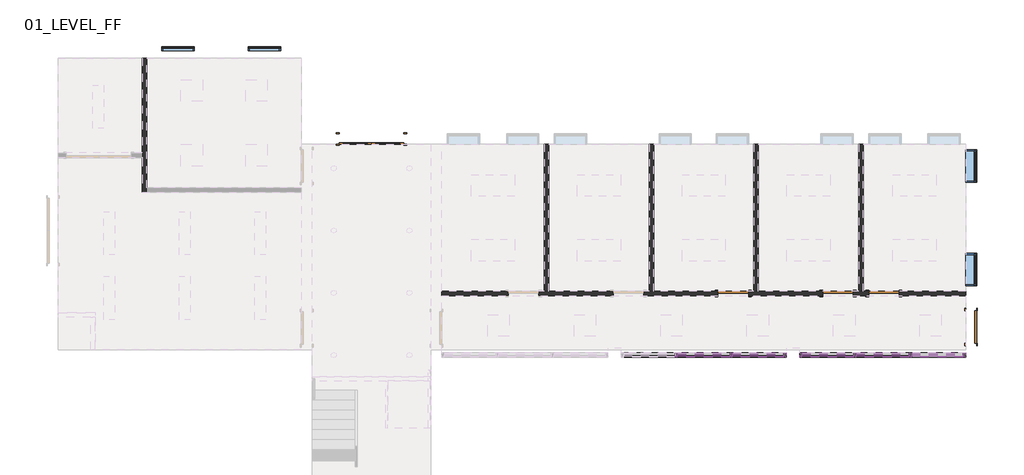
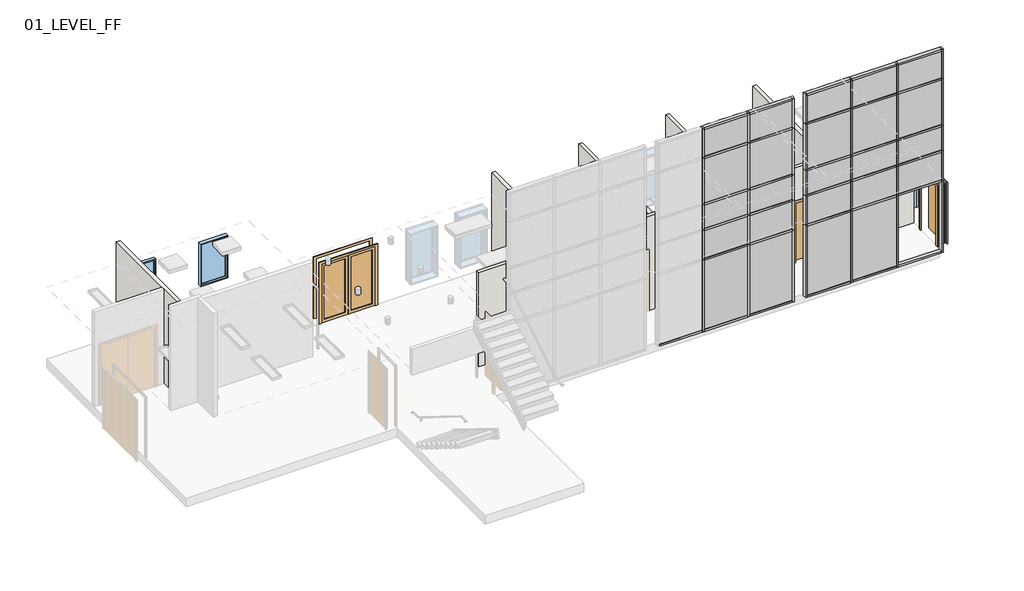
# One storey, part 2 of 3: 66 members, 24 plates, 6 walls, 5 doors, 4 windows.
"""IFC4 building model written with IfcOpenShell, lengths in millimetres."""

from ifc_helpers import new_model, si_unit, origin, origin_with_axes, place, context, project, spatial, polyline, outline, extrude, faceted_brep, transform, mapped, element, save
from components import door_6c86b5ab, door_11f27327, door_6c7271e6, door_180caff1, member_a715cb85, member_38e9bff8, member_c4de40ee, member_062c1ce8, member_db72e543, member_00559c8f, member_41892664, member_cc0a3030, member_a8b93c61, member_410c6227, member_9f3fc137, member_73c23c35, member_a139046c, member_894628af, member_f5e9092a, member_b964ebf8, system_panel_glazed_93778ba0, system_panel_glazed_d206c218, system_panel_glazed_9321428d, system_panel_glazed_8d4e5907, system_panel_glazed_67cff217, system_panel_glazed_e6de4e38, system_panel_glazed_86ca5771, system_panel_glazed_adc96db5, system_panel_glazed_09342f65, system_panel_glazed_663b4f3b, system_panel_glazed_67fd8e91, system_panel_glazed_066b89af, system_panel_solid_c6db35ca, system_panel_solid_b1352277, system_panel_solid_d860d0ae, system_panel_solid_cb224cf5, system_panel_solid_060e9704, system_panel_solid_47bad419, system_panel_solid_f38910df, system_panel_solid_c925a93a, window_c524ad49, window_19416845

model = new_model("IFC4")

# Units and contexts
model_context = context("Model", 3, world=origin())
ifc_project = project(units=[si_unit("LENGTHUNIT", "METRE", prefix="MILLI")], contexts=[model_context])

# Site, building, storey
site = spatial("IfcSite", under=ifc_project)
building = spatial("IfcBuilding", under=site)
storey = spatial("IfcBuildingStorey", under=building, Name="01_LEVEL_FF", Elevation=0.0)

# Doors
placement = place(None, origin())
door_shape = door_6c86b5ab(model_context)
element("IfcDoor", 1, ObjectType="Door-Double-Glass : 72\" x 84\"", at=placement, inside=storey, context=model_context, shape_type="MappedRepresentation", body=[
    mapped(door_shape, transform((29956.9816981, 32114.7144657, 0.0), x_axis=(-1.0, 0.0, 0.0), y_axis=(0.0, -1.0, 0.0), z_axis=(0.0, 0.0, 1.0))),
])
door_2_shape = door_11f27327(model_context)
element("IfcDoor", 2, ObjectType="Door-Single-Panel : 34\" x 84\"", at=placement, inside=storey, context=model_context, shape_type="MappedRepresentation", body=[
    mapped(door_2_shape, transform((40160.1616981, 27756.2332157, 0.0), x_axis=(1.0, 0.0, 0.0), y_axis=(0.0, 1.0, 0.0), z_axis=(0.0, 0.0, 1.0))),
])
element("IfcDoor", 3, ObjectType="Door-Single-Panel : 34\" x 84\"", at=placement, inside=storey, context=model_context, shape_type="MappedRepresentation", body=[
    mapped(door_2_shape, transform((43116.7216981, 27756.2332157, 0.0), x_axis=(1.0, 0.0, 0.0), y_axis=(0.0, 1.0, 0.0), z_axis=(0.0, 0.0, 1.0))),
])
door_3_shape = door_6c7271e6(model_context)
element("IfcDoor", 4, ObjectType="Door-Single-Panel : 34\" x 84\"", at=placement, inside=storey, context=model_context, shape_type="MappedRepresentation", body=[
    mapped(door_3_shape, transform((44412.1216981, 27756.2332157, 0.0), x_axis=(-1.0, 0.0, 0.0), y_axis=(0.0, -1.0, 0.0), z_axis=(0.0, 0.0, 1.0))),
])
door_4_shape = door_180caff1(model_context)
element("IfcDoor", 5, ObjectType="Door-Single-Panel : 36\" x 84\"", at=placement, inside=storey, context=model_context, shape_type="MappedRepresentation", body=[
    mapped(door_4_shape, transform((46873.3816981, 26810.0832157, 0.0), x_axis=(0.0, -1.0, 0.0), y_axis=(1.0, 0.0, 0.0), z_axis=(0.0, 0.0, 1.0))),
])

# Members
member_shape = member_a715cb85(model_context)
element("IfcMember", 6, ObjectType="Rectangular Mullion : 2.5\" x 5\" rectangular", at=placement, inside=storey, context=model_context, shape_type="MappedRepresentation", body=[
    mapped(member_shape, transform((38554.8816981, 26016.3332157, 6248.4), x_axis=(-1.0, 0.0, 0.0), y_axis=(0.0, 1.0, 0.0), z_axis=(0.0, 0.0, -1.0))),
])
element("IfcMember", 7, ObjectType="Rectangular Mullion : 2.5\" x 5\" rectangular", at=placement, inside=storey, context=model_context, shape_type="MappedRepresentation", body=[
    mapped(member_shape, transform((40104.2816981, 26016.3332157, 6248.4), x_axis=(-1.0, 0.0, 0.0), y_axis=(0.0, 1.0, 0.0), z_axis=(0.0, 0.0, -1.0))),
])
element("IfcMember", 8, ObjectType="Rectangular Mullion : 2.5\" x 5\" rectangular", at=placement, inside=storey, context=model_context, shape_type="MappedRepresentation", body=[
    mapped(member_shape, transform((43596.7816981, 26016.3332157, 6248.4), x_axis=(-1.0, 0.0, 0.0), y_axis=(0.0, 1.0, 0.0), z_axis=(0.0, 0.0, -1.0))),
])
element("IfcMember", 9, ObjectType="Rectangular Mullion : 2.5\" x 5\" rectangular", at=placement, inside=storey, context=model_context, shape_type="MappedRepresentation", body=[
    mapped(member_shape, transform((45158.8816981, 26016.3332157, 6248.4), x_axis=(-1.0, 0.0, 0.0), y_axis=(0.0, 1.0, 0.0), z_axis=(0.0, 0.0, -1.0))),
])
member_2_shape = member_38e9bff8(model_context)
element("IfcMember", 10, ObjectType="Rectangular Mullion : 2.5\" x 5\" rectangular", at=placement, inside=storey, context=model_context, shape_type="MappedRepresentation", body=[
    mapped(member_2_shape, transform((38554.8816981, 26016.3332157, 4572.0), x_axis=(-1.0, 0.0, 0.0), y_axis=(0.0, 1.0, 0.0), z_axis=(0.0, 0.0, -1.0))),
])
element("IfcMember", 11, ObjectType="Rectangular Mullion : 2.5\" x 5\" rectangular", at=placement, inside=storey, context=model_context, shape_type="MappedRepresentation", body=[
    mapped(member_2_shape, transform((40104.2816981, 26016.3332157, 4572.0), x_axis=(-1.0, 0.0, 0.0), y_axis=(0.0, 1.0, 0.0), z_axis=(0.0, 0.0, -1.0))),
])
element("IfcMember", 12, ObjectType="Rectangular Mullion : 2.5\" x 5\" rectangular", at=placement, inside=storey, context=model_context, shape_type="MappedRepresentation", body=[
    mapped(member_2_shape, transform((43596.7816981, 26016.3332157, 4572.0), x_axis=(-1.0, 0.0, 0.0), y_axis=(0.0, 1.0, 0.0), z_axis=(0.0, 0.0, -1.0))),
])
element("IfcMember", 13, ObjectType="Rectangular Mullion : 2.5\" x 5\" rectangular", at=placement, inside=storey, context=model_context, shape_type="MappedRepresentation", body=[
    mapped(member_2_shape, transform((45158.8816981, 26016.3332157, 4572.0), x_axis=(-1.0, 0.0, 0.0), y_axis=(0.0, 1.0, 0.0), z_axis=(0.0, 0.0, -1.0))),
])
member_3_shape = member_c4de40ee(model_context)
element("IfcMember", 14, ObjectType="Rectangular Mullion : 2.5\" x 5\" rectangular", at=placement, inside=storey, context=model_context, shape_type="MappedRepresentation", body=[
    mapped(member_3_shape, transform((41653.6816981, 26016.3332157, 7315.2), x_axis=(1.0, 0.0, 0.0), y_axis=(0.0, 1.0, 0.0), z_axis=(0.0, 0.0, 1.0))),
])
element("IfcMember", 15, ObjectType="Rectangular Mullion : 2.5\" x 5\" rectangular", at=placement, inside=storey, context=model_context, shape_type="MappedRepresentation", body=[
    mapped(member_3_shape, transform((46720.9816981, 26016.3332157, 7315.2), x_axis=(1.0, 0.0, 0.0), y_axis=(0.0, 1.0, 0.0), z_axis=(0.0, 0.0, 1.0))),
])
element("IfcMember", 16, ObjectType="Rectangular Mullion : 2.5\" x 5\" rectangular", at=placement, inside=storey, context=model_context, shape_type="MappedRepresentation", body=[
    mapped(member_3_shape, transform((42034.6816981, 26016.3332157, 6248.4), x_axis=(-1.0, 0.0, 0.0), y_axis=(0.0, 1.0, 0.0), z_axis=(0.0, 0.0, -1.0))),
])
member_4_shape = member_062c1ce8(model_context)
element("IfcMember", 17, ObjectType="Rectangular Mullion : 2.5\" x 5\" rectangular", at=placement, inside=storey, context=model_context, shape_type="MappedRepresentation", body=[
    mapped(member_4_shape, transform((42034.6816981, 26016.3332157, 4572.0), x_axis=(-1.0, 0.0, 0.0), y_axis=(0.0, 1.0, 0.0), z_axis=(0.0, 0.0, -1.0))),
])
element("IfcMember", 18, ObjectType="Rectangular Mullion : 2.5\" x 5\" rectangular", at=placement, inside=storey, context=model_context, shape_type="MappedRepresentation", body=[
    mapped(member_4_shape, transform((41653.6816981, 26016.3332157, 6248.4), x_axis=(1.0, 0.0, 0.0), y_axis=(0.0, 1.0, 0.0), z_axis=(0.0, 0.0, 1.0))),
])
element("IfcMember", 19, ObjectType="Rectangular Mullion : 2.5\" x 5\" rectangular", at=placement, inside=storey, context=model_context, shape_type="MappedRepresentation", body=[
    mapped(member_4_shape, transform((46720.9816981, 26016.3332157, 6248.4), x_axis=(1.0, 0.0, 0.0), y_axis=(0.0, 1.0, 0.0), z_axis=(0.0, 0.0, 1.0))),
])
member_5_shape = member_db72e543(model_context)
element("IfcMember", 20, ObjectType="Rectangular Mullion : 2.5\" x 5\" rectangular", at=placement, inside=storey, context=model_context, shape_type="MappedRepresentation", body=[
    mapped(member_5_shape, transform((42098.1816981, 26016.3332157, 7315.2), x_axis=(0.0, 0.0, 1.0), y_axis=(0.0, 1.0, 0.0), z_axis=(-1.0, 0.0, 0.0))),
])
element("IfcMember", 21, ObjectType="Rectangular Mullion : 2.5\" x 5\" rectangular", at=placement, inside=storey, context=model_context, shape_type="MappedRepresentation", body=[
    mapped(member_5_shape, transform((45190.6316981, 26016.3332157, 7315.2), x_axis=(0.0, 0.0, 1.0), y_axis=(0.0, 1.0, 0.0), z_axis=(-1.0, 0.0, 0.0))),
])
element("IfcMember", 22, ObjectType="Rectangular Mullion : 2.5\" x 5\" rectangular", at=placement, inside=storey, context=model_context, shape_type="MappedRepresentation", body=[
    mapped(member_5_shape, transform((46657.4816981, 26016.3332157, 0.0), x_axis=(0.0, 0.0, -1.0), y_axis=(0.0, 1.0, 0.0), z_axis=(1.0, 0.0, 0.0))),
])
element("IfcMember", 23, ObjectType="Rectangular Mullion : 2.5\" x 5\" rectangular", at=placement, inside=storey, context=model_context, shape_type="MappedRepresentation", body=[
    mapped(member_5_shape, transform((43565.0316981, 26016.3332157, 0.0), x_axis=(0.0, 0.0, -1.0), y_axis=(0.0, 1.0, 0.0), z_axis=(1.0, 0.0, 0.0))),
])
member_6_shape = member_00559c8f(model_context)
element("IfcMember", 24, ObjectType="Rectangular Mullion : 2.5\" x 5\" rectangular", at=placement, inside=storey, context=model_context, shape_type="MappedRepresentation", body=[
    mapped(member_6_shape, transform((45190.6316981, 26016.3332157, 6248.4), x_axis=(0.0, 0.0, 1.0), y_axis=(0.0, 1.0, 0.0), z_axis=(-1.0, 0.0, 0.0))),
])
element("IfcMember", 25, ObjectType="Rectangular Mullion : 2.5\" x 5\" rectangular", at=placement, inside=storey, context=model_context, shape_type="MappedRepresentation", body=[
    mapped(member_6_shape, transform((42098.1816981, 26016.3332157, 6248.4), x_axis=(0.0, 0.0, 1.0), y_axis=(0.0, 1.0, 0.0), z_axis=(-1.0, 0.0, 0.0))),
])
element("IfcMember", 26, ObjectType="Rectangular Mullion : 2.5\" x 5\" rectangular", at=placement, inside=storey, context=model_context, shape_type="MappedRepresentation", body=[
    mapped(member_6_shape, transform((45190.6316981, 26016.3332157, 2590.8), x_axis=(0.0, 0.0, 1.0), y_axis=(0.0, 1.0, 0.0), z_axis=(-1.0, 0.0, 0.0))),
])
element("IfcMember", 27, ObjectType="Rectangular Mullion : 2.5\" x 5\" rectangular", at=placement, inside=storey, context=model_context, shape_type="MappedRepresentation", body=[
    mapped(member_6_shape, transform((42098.1816981, 26016.3332157, 2590.8), x_axis=(0.0, 0.0, 1.0), y_axis=(0.0, 1.0, 0.0), z_axis=(-1.0, 0.0, 0.0))),
])
element("IfcMember", 28, ObjectType="Rectangular Mullion : 2.5\" x 5\" rectangular", at=placement, inside=storey, context=model_context, shape_type="MappedRepresentation", body=[
    mapped(member_6_shape, transform((45190.6316981, 26016.3332157, 4572.0), x_axis=(0.0, 0.0, 1.0), y_axis=(0.0, 1.0, 0.0), z_axis=(-1.0, 0.0, 0.0))),
])
element("IfcMember", 29, ObjectType="Rectangular Mullion : 2.5\" x 5\" rectangular", at=placement, inside=storey, context=model_context, shape_type="MappedRepresentation", body=[
    mapped(member_6_shape, transform((42098.1816981, 26016.3332157, 4572.0), x_axis=(0.0, 0.0, 1.0), y_axis=(0.0, 1.0, 0.0), z_axis=(-1.0, 0.0, 0.0))),
])
element("IfcMember", 30, ObjectType="Rectangular Mullion : 2.5\" x 5\" rectangular", at=placement, inside=storey, context=model_context, shape_type="MappedRepresentation", body=[
    mapped(member_6_shape, transform((45190.6316981, 26016.3332157, 3657.6), x_axis=(0.0, 0.0, 1.0), y_axis=(0.0, 1.0, 0.0), z_axis=(-1.0, 0.0, 0.0))),
])
element("IfcMember", 31, ObjectType="Rectangular Mullion : 2.5\" x 5\" rectangular", at=placement, inside=storey, context=model_context, shape_type="MappedRepresentation", body=[
    mapped(member_6_shape, transform((42098.1816981, 26016.3332157, 3657.6), x_axis=(0.0, 0.0, 1.0), y_axis=(0.0, 1.0, 0.0), z_axis=(-1.0, 0.0, 0.0))),
])
member_7_shape = member_41892664(model_context)
element("IfcMember", 32, ObjectType="Rectangular Mullion : 2.5\" x 5\" rectangular", at=placement, inside=storey, context=model_context, shape_type="MappedRepresentation", body=[
    mapped(member_7_shape, transform((43628.5316981, 26016.3332157, 6248.4), x_axis=(0.0, 0.0, 1.0), y_axis=(0.0, 1.0, 0.0), z_axis=(-1.0, 0.0, 0.0))),
])
element("IfcMember", 33, ObjectType="Rectangular Mullion : 2.5\" x 5\" rectangular", at=placement, inside=storey, context=model_context, shape_type="MappedRepresentation", body=[
    mapped(member_7_shape, transform((43628.5316981, 26016.3332157, 2590.8), x_axis=(0.0, 0.0, 1.0), y_axis=(0.0, 1.0, 0.0), z_axis=(-1.0, 0.0, 0.0))),
])
element("IfcMember", 34, ObjectType="Rectangular Mullion : 2.5\" x 5\" rectangular", at=placement, inside=storey, context=model_context, shape_type="MappedRepresentation", body=[
    mapped(member_7_shape, transform((43628.5316981, 26016.3332157, 4572.0), x_axis=(0.0, 0.0, 1.0), y_axis=(0.0, 1.0, 0.0), z_axis=(-1.0, 0.0, 0.0))),
])
element("IfcMember", 35, ObjectType="Rectangular Mullion : 2.5\" x 5\" rectangular", at=placement, inside=storey, context=model_context, shape_type="MappedRepresentation", body=[
    mapped(member_7_shape, transform((43628.5316981, 26016.3332157, 3657.6), x_axis=(0.0, 0.0, 1.0), y_axis=(0.0, 1.0, 0.0), z_axis=(-1.0, 0.0, 0.0))),
])
member_8_shape = member_cc0a3030(model_context)
element("IfcMember", 36, ObjectType="Rectangular Mullion : 2.5\" x 5\" rectangular", at=placement, inside=storey, context=model_context, shape_type="MappedRepresentation", body=[
    mapped(member_8_shape, transform((38554.8816981, 26016.3332157, 0.0), x_axis=(-1.0, 0.0, 0.0), y_axis=(0.0, 1.0, 0.0), z_axis=(0.0, 0.0, -1.0))),
])
element("IfcMember", 37, ObjectType="Rectangular Mullion : 2.5\" x 5\" rectangular", at=placement, inside=storey, context=model_context, shape_type="MappedRepresentation", body=[
    mapped(member_8_shape, transform((40104.2816981, 26016.3332157, 0.0), x_axis=(-1.0, 0.0, 0.0), y_axis=(0.0, 1.0, 0.0), z_axis=(0.0, 0.0, -1.0))),
])
element("IfcMember", 38, ObjectType="Rectangular Mullion : 2.5\" x 5\" rectangular", at=placement, inside=storey, context=model_context, shape_type="MappedRepresentation", body=[
    mapped(member_8_shape, transform((43596.7816981, 26016.3332157, 0.0), x_axis=(-1.0, 0.0, 0.0), y_axis=(0.0, 1.0, 0.0), z_axis=(0.0, 0.0, -1.0))),
])
element("IfcMember", 39, ObjectType="Rectangular Mullion : 2.5\" x 5\" rectangular", at=placement, inside=storey, context=model_context, shape_type="MappedRepresentation", body=[
    mapped(member_8_shape, transform((45158.8816981, 26016.3332157, 0.0), x_axis=(-1.0, 0.0, 0.0), y_axis=(0.0, 1.0, 0.0), z_axis=(0.0, 0.0, -1.0))),
])
member_9_shape = member_a8b93c61(model_context)
element("IfcMember", 40, ObjectType="Rectangular Mullion : 2.5\" x 5\" rectangular", at=placement, inside=storey, context=model_context, shape_type="MappedRepresentation", body=[
    mapped(member_9_shape, transform((45127.1316981, 26016.3332157, 0.0), x_axis=(0.0, 0.0, -1.0), y_axis=(0.0, 1.0, 0.0), z_axis=(1.0, 0.0, 0.0))),
])
element("IfcMember", 41, ObjectType="Rectangular Mullion : 2.5\" x 5\" rectangular", at=placement, inside=storey, context=model_context, shape_type="MappedRepresentation", body=[
    mapped(member_9_shape, transform((43628.5316981, 26016.3332157, 7315.2), x_axis=(0.0, 0.0, 1.0), y_axis=(0.0, 1.0, 0.0), z_axis=(-1.0, 0.0, 0.0))),
])
member_10_shape = member_410c6227(model_context)
element("IfcMember", 42, ObjectType="Rectangular Mullion : 2.5\" x 5\" rectangular", at=placement, inside=storey, context=model_context, shape_type="MappedRepresentation", body=[
    mapped(member_10_shape, transform((38554.8816981, 26016.3332157, 3657.6), x_axis=(-1.0, 0.0, 0.0), y_axis=(0.0, 1.0, 0.0), z_axis=(0.0, 0.0, -1.0))),
])
element("IfcMember", 43, ObjectType="Rectangular Mullion : 2.5\" x 5\" rectangular", at=placement, inside=storey, context=model_context, shape_type="MappedRepresentation", body=[
    mapped(member_10_shape, transform((40104.2816981, 26016.3332157, 3657.6), x_axis=(-1.0, 0.0, 0.0), y_axis=(0.0, 1.0, 0.0), z_axis=(0.0, 0.0, -1.0))),
])
element("IfcMember", 44, ObjectType="Rectangular Mullion : 2.5\" x 5\" rectangular", at=placement, inside=storey, context=model_context, shape_type="MappedRepresentation", body=[
    mapped(member_10_shape, transform((43596.7816981, 26016.3332157, 3657.6), x_axis=(-1.0, 0.0, 0.0), y_axis=(0.0, 1.0, 0.0), z_axis=(0.0, 0.0, -1.0))),
])
element("IfcMember", 45, ObjectType="Rectangular Mullion : 2.5\" x 5\" rectangular", at=placement, inside=storey, context=model_context, shape_type="MappedRepresentation", body=[
    mapped(member_10_shape, transform((45158.8816981, 26016.3332157, 3657.6), x_axis=(-1.0, 0.0, 0.0), y_axis=(0.0, 1.0, 0.0), z_axis=(0.0, 0.0, -1.0))),
])
element("IfcMember", 46, ObjectType="Rectangular Mullion : 2.5\" x 5\" rectangular", at=placement, inside=storey, context=model_context, shape_type="MappedRepresentation", body=[
    mapped(member_shape, transform((38554.8816981, 26016.3332157, 2590.8), x_axis=(-1.0, 0.0, 0.0), y_axis=(0.0, 1.0, 0.0), z_axis=(0.0, 0.0, -1.0))),
])
element("IfcMember", 47, ObjectType="Rectangular Mullion : 2.5\" x 5\" rectangular", at=placement, inside=storey, context=model_context, shape_type="MappedRepresentation", body=[
    mapped(member_shape, transform((40104.2816981, 26016.3332157, 2590.8), x_axis=(-1.0, 0.0, 0.0), y_axis=(0.0, 1.0, 0.0), z_axis=(0.0, 0.0, -1.0))),
])
element("IfcMember", 48, ObjectType="Rectangular Mullion : 2.5\" x 5\" rectangular", at=placement, inside=storey, context=model_context, shape_type="MappedRepresentation", body=[
    mapped(member_shape, transform((43596.7816981, 26016.3332157, 2590.8), x_axis=(-1.0, 0.0, 0.0), y_axis=(0.0, 1.0, 0.0), z_axis=(0.0, 0.0, -1.0))),
])
element("IfcMember", 49, ObjectType="Rectangular Mullion : 2.5\" x 5\" rectangular", at=placement, inside=storey, context=model_context, shape_type="MappedRepresentation", body=[
    mapped(member_shape, transform((45158.8816981, 26016.3332157, 2590.8), x_axis=(-1.0, 0.0, 0.0), y_axis=(0.0, 1.0, 0.0), z_axis=(0.0, 0.0, -1.0))),
])
member_11_shape = member_9f3fc137(model_context)
element("IfcMember", 50, ObjectType="Rectangular Mullion : 2.5\" x 5\" rectangular", at=placement, inside=storey, context=model_context, shape_type="MappedRepresentation", body=[
    mapped(member_11_shape, transform((42034.6816981, 26016.3332157, 0.0), x_axis=(-1.0, 0.0, 0.0), y_axis=(0.0, 1.0, 0.0), z_axis=(0.0, 0.0, -1.0))),
])
member_12_shape = member_73c23c35(model_context)
element("IfcMember", 51, ObjectType="Rectangular Mullion : 2.5\" x 5\" rectangular", at=placement, inside=storey, context=model_context, shape_type="MappedRepresentation", body=[
    mapped(member_12_shape, transform((42034.6816981, 26016.3332157, 3657.6), x_axis=(-1.0, 0.0, 0.0), y_axis=(0.0, 1.0, 0.0), z_axis=(0.0, 0.0, -1.0))),
])
element("IfcMember", 52, ObjectType="Rectangular Mullion : 2.5\" x 5\" rectangular", at=placement, inside=storey, context=model_context, shape_type="MappedRepresentation", body=[
    mapped(member_3_shape, transform((42034.6816981, 26016.3332157, 2590.8), x_axis=(-1.0, 0.0, 0.0), y_axis=(0.0, 1.0, 0.0), z_axis=(0.0, 0.0, -1.0))),
])
element("IfcMember", 53, ObjectType="Rectangular Mullion : 2.5\" x 5\" rectangular", at=placement, inside=storey, context=model_context, shape_type="MappedRepresentation", body=[
    mapped(member_3_shape, transform((41653.6816981, 26016.3332157, 3657.6), x_axis=(1.0, 0.0, 0.0), y_axis=(0.0, 1.0, 0.0), z_axis=(0.0, 0.0, 1.0))),
])
element("IfcMember", 54, ObjectType="Rectangular Mullion : 2.5\" x 5\" rectangular", at=placement, inside=storey, context=model_context, shape_type="MappedRepresentation", body=[
    mapped(member_3_shape, transform((46720.9816981, 26016.3332157, 3657.6), x_axis=(1.0, 0.0, 0.0), y_axis=(0.0, 1.0, 0.0), z_axis=(0.0, 0.0, 1.0))),
])
element("IfcMember", 55, ObjectType="Rectangular Mullion : 2.5\" x 5\" rectangular", at=placement, inside=storey, context=model_context, shape_type="MappedRepresentation", body=[
    mapped(member_11_shape, transform((41653.6816981, 26016.3332157, 2590.8), x_axis=(1.0, 0.0, 0.0), y_axis=(0.0, 1.0, 0.0), z_axis=(0.0, 0.0, 1.0))),
])
element("IfcMember", 56, ObjectType="Rectangular Mullion : 2.5\" x 5\" rectangular", at=placement, inside=storey, context=model_context, shape_type="MappedRepresentation", body=[
    mapped(member_11_shape, transform((46720.9816981, 26016.3332157, 2590.8), x_axis=(1.0, 0.0, 0.0), y_axis=(0.0, 1.0, 0.0), z_axis=(0.0, 0.0, 1.0))),
])
element("IfcMember", 57, ObjectType="Rectangular Mullion : 2.5\" x 5\" rectangular", at=placement, inside=storey, context=model_context, shape_type="MappedRepresentation", body=[
    mapped(member_12_shape, transform((41653.6816981, 26016.3332157, 4572.0), x_axis=(1.0, 0.0, 0.0), y_axis=(0.0, 1.0, 0.0), z_axis=(0.0, 0.0, 1.0))),
])
element("IfcMember", 58, ObjectType="Rectangular Mullion : 2.5\" x 5\" rectangular", at=placement, inside=storey, context=model_context, shape_type="MappedRepresentation", body=[
    mapped(member_12_shape, transform((46720.9816981, 26016.3332157, 4572.0), x_axis=(1.0, 0.0, 0.0), y_axis=(0.0, 1.0, 0.0), z_axis=(0.0, 0.0, 1.0))),
])
member_13_shape = member_a139046c(model_context)
element("IfcMember", 59, ObjectType="Rectangular Mullion : 2.5\" x 5\" rectangular", at=placement, inside=storey, context=model_context, shape_type="MappedRepresentation", body=[
    mapped(member_13_shape, transform((40136.0316981, 26016.3332157, 7315.2), x_axis=(0.0, 0.0, 1.0), y_axis=(0.0, 1.0, 0.0), z_axis=(-1.0, 0.0, 0.0))),
])
element("IfcMember", 60, ObjectType="Rectangular Mullion : 2.5\" x 5\" rectangular", at=placement, inside=storey, context=model_context, shape_type="MappedRepresentation", body=[
    mapped(member_13_shape, transform((41590.1816981, 26016.3332157, 0.0), x_axis=(0.0, 0.0, -1.0), y_axis=(0.0, 1.0, 0.0), z_axis=(1.0, 0.0, 0.0))),
])
element("IfcMember", 61, ObjectType="Rectangular Mullion : 2.5\" x 5\" rectangular", at=placement, inside=storey, context=model_context, shape_type="MappedRepresentation", body=[
    mapped(member_13_shape, transform((38523.1316981, 26016.3332157, 0.0), x_axis=(0.0, 0.0, -1.0), y_axis=(0.0, 1.0, 0.0), z_axis=(1.0, 0.0, 0.0))),
])
member_14_shape = member_894628af(model_context)
element("IfcMember", 62, ObjectType="Rectangular Mullion : 2.5\" x 5\" rectangular", at=placement, inside=storey, context=model_context, shape_type="MappedRepresentation", body=[
    mapped(member_14_shape, transform((40136.0316981, 26016.3332157, 2590.8), x_axis=(0.0, 0.0, 1.0), y_axis=(0.0, 1.0, 0.0), z_axis=(-1.0, 0.0, 0.0))),
])
element("IfcMember", 63, ObjectType="Rectangular Mullion : 2.5\" x 5\" rectangular", at=placement, inside=storey, context=model_context, shape_type="MappedRepresentation", body=[
    mapped(member_14_shape, transform((40136.0316981, 26016.3332157, 6248.4), x_axis=(0.0, 0.0, 1.0), y_axis=(0.0, 1.0, 0.0), z_axis=(-1.0, 0.0, 0.0))),
])
element("IfcMember", 64, ObjectType="Rectangular Mullion : 2.5\" x 5\" rectangular", at=placement, inside=storey, context=model_context, shape_type="MappedRepresentation", body=[
    mapped(member_14_shape, transform((40136.0316981, 26016.3332157, 4572.0), x_axis=(0.0, 0.0, 1.0), y_axis=(0.0, 1.0, 0.0), z_axis=(-1.0, 0.0, 0.0))),
])
element("IfcMember", 65, ObjectType="Rectangular Mullion : 2.5\" x 5\" rectangular", at=placement, inside=storey, context=model_context, shape_type="MappedRepresentation", body=[
    mapped(member_14_shape, transform((40136.0316981, 26016.3332157, 3657.6), x_axis=(0.0, 0.0, 1.0), y_axis=(0.0, 1.0, 0.0), z_axis=(-1.0, 0.0, 0.0))),
])
member_15_shape = member_f5e9092a(model_context)
element("IfcMember", 66, ObjectType="Rectangular Mullion : 2.5\" x 5\" rectangular", at=placement, inside=storey, context=model_context, shape_type="MappedRepresentation", body=[
    mapped(member_15_shape, transform((38586.6316981, 26016.3332157, 2590.8), x_axis=(0.0, 0.0, 1.0), y_axis=(0.0, 1.0, 0.0), z_axis=(-1.0, 0.0, 0.0))),
])
element("IfcMember", 67, ObjectType="Rectangular Mullion : 2.5\" x 5\" rectangular", at=placement, inside=storey, context=model_context, shape_type="MappedRepresentation", body=[
    mapped(member_15_shape, transform((38586.6316981, 26016.3332157, 6248.4), x_axis=(0.0, 0.0, 1.0), y_axis=(0.0, 1.0, 0.0), z_axis=(-1.0, 0.0, 0.0))),
])
element("IfcMember", 68, ObjectType="Rectangular Mullion : 2.5\" x 5\" rectangular", at=placement, inside=storey, context=model_context, shape_type="MappedRepresentation", body=[
    mapped(member_15_shape, transform((38586.6316981, 26016.3332157, 4572.0), x_axis=(0.0, 0.0, 1.0), y_axis=(0.0, 1.0, 0.0), z_axis=(-1.0, 0.0, 0.0))),
])
element("IfcMember", 69, ObjectType="Rectangular Mullion : 2.5\" x 5\" rectangular", at=placement, inside=storey, context=model_context, shape_type="MappedRepresentation", body=[
    mapped(member_15_shape, transform((38586.6316981, 26016.3332157, 3657.6), x_axis=(0.0, 0.0, 1.0), y_axis=(0.0, 1.0, 0.0), z_axis=(-1.0, 0.0, 0.0))),
])
member_16_shape = member_b964ebf8(model_context)
element("IfcMember", 70, ObjectType="Rectangular Mullion : 2.5\" x 5\" rectangular", at=placement, inside=storey, context=model_context, shape_type="MappedRepresentation", body=[
    mapped(member_16_shape, transform((40072.5316981, 26016.3332157, 0.0), x_axis=(0.0, 0.0, -1.0), y_axis=(0.0, 1.0, 0.0), z_axis=(1.0, 0.0, 0.0))),
])
element("IfcMember", 71, ObjectType="Rectangular Mullion : 2.5\" x 5\" rectangular", at=placement, inside=storey, context=model_context, shape_type="MappedRepresentation", body=[
    mapped(member_16_shape, transform((38586.6316981, 26016.3332157, 7315.2), x_axis=(0.0, 0.0, 1.0), y_axis=(0.0, 1.0, 0.0), z_axis=(-1.0, 0.0, 0.0))),
])

# Plates
system_panel_glazed_shape = system_panel_glazed_93778ba0(model_context)
element("IfcPlate", 72, ObjectType="System Panel : Glazed", at=placement, inside=storey, context=model_context, shape_type="MappedRepresentation", body=[
    mapped(system_panel_glazed_shape, transform((42831.6066981, 26016.3332157, 63.5), x_axis=(-1.0, 0.0, 0.0), y_axis=(0.0, -1.0, 0.0), z_axis=(0.0, 0.0, 1.0))),
])
system_panel_glazed_2_shape = system_panel_glazed_d206c218(model_context)
element("IfcPlate", 73, ObjectType="System Panel : Glazed", at=placement, inside=storey, context=model_context, shape_type="MappedRepresentation", body=[
    mapped(system_panel_glazed_2_shape, transform((45924.0566981, 26016.3332157, 3689.35), x_axis=(-1.0, 0.0, 0.0), y_axis=(0.0, -1.0, 0.0), z_axis=(0.0, 0.0, 1.0))),
])
element("IfcPlate", 74, ObjectType="System Panel : Glazed", at=placement, inside=storey, context=model_context, shape_type="MappedRepresentation", body=[
    mapped(system_panel_glazed_2_shape, transform((42831.6066981, 26016.3332157, 3689.35), x_axis=(-1.0, 0.0, 0.0), y_axis=(0.0, -1.0, 0.0), z_axis=(0.0, 0.0, 1.0))),
])
system_panel_glazed_3_shape = system_panel_glazed_9321428d(model_context)
element("IfcPlate", 75, ObjectType="System Panel : Glazed", at=placement, inside=storey, context=model_context, shape_type="MappedRepresentation", body=[
    mapped(system_panel_glazed_3_shape, transform((44377.8316981, 26016.3332157, 63.5), x_axis=(-1.0, 0.0, 0.0), y_axis=(0.0, -1.0, 0.0), z_axis=(0.0, 0.0, 1.0))),
])
system_panel_glazed_4_shape = system_panel_glazed_8d4e5907(model_context)
element("IfcPlate", 76, ObjectType="System Panel : Glazed", at=placement, inside=storey, context=model_context, shape_type="MappedRepresentation", body=[
    mapped(system_panel_glazed_4_shape, transform((44377.8316981, 26016.3332157, 3689.35), x_axis=(-1.0, 0.0, 0.0), y_axis=(0.0, -1.0, 0.0), z_axis=(0.0, 0.0, 1.0))),
])
system_panel_glazed_5_shape = system_panel_glazed_67cff217(model_context)
element("IfcPlate", 77, ObjectType="System Panel : Glazed", at=placement, inside=storey, context=model_context, shape_type="MappedRepresentation", body=[
    mapped(system_panel_glazed_5_shape, transform((45924.0566981, 26016.3332157, 4603.75), x_axis=(-1.0, 0.0, 0.0), y_axis=(0.0, -1.0, 0.0), z_axis=(0.0, 0.0, 1.0))),
])
element("IfcPlate", 78, ObjectType="System Panel : Glazed", at=placement, inside=storey, context=model_context, shape_type="MappedRepresentation", body=[
    mapped(system_panel_glazed_5_shape, transform((42831.6066981, 26016.3332157, 4603.75), x_axis=(-1.0, 0.0, 0.0), y_axis=(0.0, -1.0, 0.0), z_axis=(0.0, 0.0, 1.0))),
])
system_panel_glazed_6_shape = system_panel_glazed_e6de4e38(model_context)
element("IfcPlate", 79, ObjectType="System Panel : Glazed", at=placement, inside=storey, context=model_context, shape_type="MappedRepresentation", body=[
    mapped(system_panel_glazed_6_shape, transform((44377.8316981, 26016.3332157, 4603.75), x_axis=(-1.0, 0.0, 0.0), y_axis=(0.0, -1.0, 0.0), z_axis=(0.0, 0.0, 1.0))),
])
system_panel_glazed_7_shape = system_panel_glazed_86ca5771(model_context)
element("IfcPlate", 80, ObjectType="System Panel : Glazed", at=placement, inside=storey, context=model_context, shape_type="MappedRepresentation", body=[
    mapped(system_panel_glazed_7_shape, transform((40863.1066981, 26016.3332157, 63.5), x_axis=(-1.0, 0.0, 0.0), y_axis=(0.0, -1.0, 0.0), z_axis=(0.0, 0.0, 1.0))),
])
system_panel_glazed_8_shape = system_panel_glazed_adc96db5(model_context)
element("IfcPlate", 81, ObjectType="System Panel : Glazed", at=placement, inside=storey, context=model_context, shape_type="MappedRepresentation", body=[
    mapped(system_panel_glazed_8_shape, transform((39329.5816981, 26016.3332157, 63.5), x_axis=(-1.0, 0.0, 0.0), y_axis=(0.0, -1.0, 0.0), z_axis=(0.0, 0.0, 1.0))),
])
system_panel_glazed_9_shape = system_panel_glazed_09342f65(model_context)
element("IfcPlate", 82, ObjectType="System Panel : Glazed", at=placement, inside=storey, context=model_context, shape_type="MappedRepresentation", body=[
    mapped(system_panel_glazed_9_shape, transform((40863.1066981, 26016.3332157, 4603.75), x_axis=(-1.0, 0.0, 0.0), y_axis=(0.0, -1.0, 0.0), z_axis=(0.0, 0.0, 1.0))),
])
system_panel_glazed_10_shape = system_panel_glazed_663b4f3b(model_context)
element("IfcPlate", 83, ObjectType="System Panel : Glazed", at=placement, inside=storey, context=model_context, shape_type="MappedRepresentation", body=[
    mapped(system_panel_glazed_10_shape, transform((39329.5816981, 26016.3332157, 4603.75), x_axis=(-1.0, 0.0, 0.0), y_axis=(0.0, -1.0, 0.0), z_axis=(0.0, 0.0, 1.0))),
])
system_panel_glazed_11_shape = system_panel_glazed_67fd8e91(model_context)
element("IfcPlate", 84, ObjectType="System Panel : Glazed", at=placement, inside=storey, context=model_context, shape_type="MappedRepresentation", body=[
    mapped(system_panel_glazed_11_shape, transform((40863.1066981, 26016.3332157, 3689.35), x_axis=(-1.0, 0.0, 0.0), y_axis=(0.0, -1.0, 0.0), z_axis=(0.0, 0.0, 1.0))),
])
system_panel_glazed_12_shape = system_panel_glazed_066b89af(model_context)
element("IfcPlate", 85, ObjectType="System Panel : Glazed", at=placement, inside=storey, context=model_context, shape_type="MappedRepresentation", body=[
    mapped(system_panel_glazed_12_shape, transform((39329.5816981, 26016.3332157, 3689.35), x_axis=(-1.0, 0.0, 0.0), y_axis=(0.0, -1.0, 0.0), z_axis=(0.0, 0.0, 1.0))),
])
system_panel_solid_shape = system_panel_solid_c6db35ca(model_context)
element("IfcPlate", 86, ObjectType="System Panel : Solid", at=placement, inside=storey, context=model_context, shape_type="MappedRepresentation", body=[
    mapped(system_panel_solid_shape, transform((45924.0566981, 26016.3332157, 2622.55), x_axis=(-1.0, 0.0, 0.0), y_axis=(0.0, -1.0, 0.0), z_axis=(0.0, 0.0, 1.0))),
])
element("IfcPlate", 87, ObjectType="System Panel : Solid", at=placement, inside=storey, context=model_context, shape_type="MappedRepresentation", body=[
    mapped(system_panel_solid_shape, transform((42831.6066981, 26016.3332157, 2622.55), x_axis=(-1.0, 0.0, 0.0), y_axis=(0.0, -1.0, 0.0), z_axis=(0.0, 0.0, 1.0))),
])
system_panel_solid_2_shape = system_panel_solid_b1352277(model_context)
element("IfcPlate", 88, ObjectType="System Panel : Solid", at=placement, inside=storey, context=model_context, shape_type="MappedRepresentation", body=[
    mapped(system_panel_solid_2_shape, transform((44377.8316981, 26016.3332157, 2622.55), x_axis=(-1.0, 0.0, 0.0), y_axis=(0.0, -1.0, 0.0), z_axis=(0.0, 0.0, 1.0))),
])
system_panel_solid_3_shape = system_panel_solid_d860d0ae(model_context)
element("IfcPlate", 89, ObjectType="System Panel : Solid", at=placement, inside=storey, context=model_context, shape_type="MappedRepresentation", body=[
    mapped(system_panel_solid_3_shape, transform((40863.1066981, 26016.3332157, 2622.55), x_axis=(-1.0, 0.0, 0.0), y_axis=(0.0, -1.0, 0.0), z_axis=(0.0, 0.0, 1.0))),
])
system_panel_solid_4_shape = system_panel_solid_cb224cf5(model_context)
element("IfcPlate", 90, ObjectType="System Panel : Solid", at=placement, inside=storey, context=model_context, shape_type="MappedRepresentation", body=[
    mapped(system_panel_solid_4_shape, transform((39329.5816981, 26016.3332157, 2622.55), x_axis=(-1.0, 0.0, 0.0), y_axis=(0.0, -1.0, 0.0), z_axis=(0.0, 0.0, 1.0))),
])
system_panel_solid_5_shape = system_panel_solid_060e9704(model_context)
element("IfcPlate", 91, ObjectType="System Panel : Solid", at=placement, inside=storey, context=model_context, shape_type="MappedRepresentation", body=[
    mapped(system_panel_solid_5_shape, transform((45924.0566981, 26016.3332157, 6280.15), x_axis=(-1.0, 0.0, 0.0), y_axis=(0.0, -1.0, 0.0), z_axis=(0.0, 0.0, 1.0))),
])
element("IfcPlate", 92, ObjectType="System Panel : Solid", at=placement, inside=storey, context=model_context, shape_type="MappedRepresentation", body=[
    mapped(system_panel_solid_5_shape, transform((42831.6066981, 26016.3332157, 6280.15), x_axis=(-1.0, 0.0, 0.0), y_axis=(0.0, -1.0, 0.0), z_axis=(0.0, 0.0, 1.0))),
])
system_panel_solid_6_shape = system_panel_solid_47bad419(model_context)
element("IfcPlate", 93, ObjectType="System Panel : Solid", at=placement, inside=storey, context=model_context, shape_type="MappedRepresentation", body=[
    mapped(system_panel_solid_6_shape, transform((44377.8316981, 26016.3332157, 6280.15), x_axis=(-1.0, 0.0, 0.0), y_axis=(0.0, -1.0, 0.0), z_axis=(0.0, 0.0, 1.0))),
])
system_panel_solid_7_shape = system_panel_solid_f38910df(model_context)
element("IfcPlate", 94, ObjectType="System Panel : Solid", at=placement, inside=storey, context=model_context, shape_type="MappedRepresentation", body=[
    mapped(system_panel_solid_7_shape, transform((40863.1066981, 26016.3332157, 6280.15), x_axis=(-1.0, 0.0, 0.0), y_axis=(0.0, -1.0, 0.0), z_axis=(0.0, 0.0, 1.0))),
])
system_panel_solid_8_shape = system_panel_solid_c925a93a(model_context)
element("IfcPlate", 95, ObjectType="System Panel : Solid", at=placement, inside=storey, context=model_context, shape_type="MappedRepresentation", body=[
    mapped(system_panel_solid_8_shape, transform((39329.5816981, 26016.3332157, 6280.15), x_axis=(-1.0, 0.0, 0.0), y_axis=(0.0, -1.0, 0.0), z_axis=(0.0, 0.0, 1.0))),
])

# Walls
element("IfcWall", 96, ObjectType="Generic - 5\"", at=placement, inside=storey, context=model_context, shape_type="Brep", body=[
    faceted_brep([(23619.6816981, 30613.7332157, 0.0), (23619.6816981, 30740.7332157, 0.0), (23619.6816981, 34398.3332157, 0.0), (23619.6816981, 34398.3332157, 3384.55), (23619.6816981, 30740.7332157, 3384.55), (23619.6816981, 30613.7332157, 3384.55), (23492.6816981, 30613.7332157, 0.0), (23492.6816981, 30613.7332157, 3384.55), (23492.6816981, 31591.6332157, 3384.55), (23492.6816981, 31718.6332157, 3384.55), (23492.6816981, 34398.3332157, 3384.55), (23492.6816981, 34398.3332157, 0.0), (23492.6816981, 31718.6332157, 0.0), (23492.6816981, 31591.6332157, 0.0)], [[[0, 1, 2, 3, 4, 5]], [[6, 7, 8, 9, 10, 11, 12, 13]], [[2, 1, 0, 6, 13, 12, 11]], [[3, 2, 11, 10]], [[0, 5, 7, 6]], [[5, 4, 3, 10, 9, 8, 7]]]),
])
element("IfcWall", 97, ObjectType="Generic - 5\"", at=placement, inside=storey, context=model_context, shape_type="Brep", body=[
    faceted_brep([(43548.5216981, 27692.7332157, 0.0), (43980.3216981, 27692.7332157, 0.0), (43980.3216981, 27692.7332157, 2133.6), (44843.9216981, 27692.7332157, 2133.6), (44843.9216981, 27692.7332157, 0.0), (46720.9816981, 27692.7332157, 0.0), (46720.9816981, 27692.7332157, 3384.55), (31938.1816981, 27692.7332157, 3384.55), (31938.1816981, 27692.7332157, 0.0), (33815.2416981, 27692.7332157, 0.0), (33815.2416981, 27692.7332157, 2133.6), (34678.8416981, 27692.7332157, 2133.6), (34678.8416981, 27692.7332157, 0.0), (36771.8016981, 27692.7332157, 0.0), (36771.8016981, 27692.7332157, 2133.6), (37635.4016981, 27692.7332157, 2133.6), (37635.4016981, 27692.7332157, 0.0), (39728.3616981, 27692.7332157, 0.0), (39728.3616981, 27692.7332157, 2133.6), (40591.9616981, 27692.7332157, 2133.6), (40591.9616981, 27692.7332157, 0.0), (42684.9216981, 27692.7332157, 0.0), (42684.9216981, 27692.7332157, 2133.6), (43548.5216981, 27692.7332157, 2133.6), (43980.3216981, 27819.7332157, 2133.6), (43980.3216981, 27819.7332157, 0.0), (43827.9216981, 27819.7332157, 0.0), (43700.9216981, 27819.7332157, 0.0), (43548.5216981, 27819.7332157, 0.0), (43548.5216981, 27819.7332157, 2133.6), (42684.9216981, 27819.7332157, 2133.6), (42684.9216981, 27819.7332157, 0.0), (40871.3616981, 27819.7332157, 0.0), (40744.3616981, 27819.7332157, 0.0), (40591.9616981, 27819.7332157, 0.0), (40591.9616981, 27819.7332157, 2133.6), (39728.3616981, 27819.7332157, 2133.6), (39728.3616981, 27819.7332157, 0.0), (37914.8016981, 27819.7332157, 0.0), (37787.8016981, 27819.7332157, 0.0), (37635.4016981, 27819.7332157, 0.0), (37635.4016981, 27819.7332157, 2133.6), (36771.8016981, 27819.7332157, 2133.6), (36771.8016981, 27819.7332157, 0.0), (34958.2416981, 27819.7332157, 0.0), (34831.2416981, 27819.7332157, 0.0), (34678.8416981, 27819.7332157, 0.0), (34678.8416981, 27819.7332157, 2133.6), (33815.2416981, 27819.7332157, 2133.6), (33815.2416981, 27819.7332157, 0.0), (31938.1816981, 27819.7332157, 0.0), (31938.1816981, 27819.7332157, 3384.55), (34831.2416981, 27819.7332157, 3384.55), (34958.2416981, 27819.7332157, 3384.55), (37787.8016981, 27819.7332157, 3384.55), (37914.8016981, 27819.7332157, 3384.55), (40744.3616981, 27819.7332157, 3384.55), (40871.3616981, 27819.7332157, 3384.55), (43700.9216981, 27819.7332157, 3384.55), (43827.9216981, 27819.7332157, 3384.55), (46720.9816981, 27819.7332157, 3384.55), (46720.9816981, 27819.7332157, 0.0), (44843.9216981, 27819.7332157, 0.0), (44843.9216981, 27819.7332157, 2133.6)], [[[0, 1, 2, 3, 4, 5, 6, 7, 8, 9, 10, 11, 12, 13, 14, 15, 16, 17, 18, 19, 20, 21, 22, 23]], [[24, 25, 26, 27, 28, 29, 30, 31, 32, 33, 34, 35, 36, 37, 38, 39, 40, 41, 42, 43, 44, 45, 46, 47, 48, 49, 50, 51, 52, 53, 54, 55, 56, 57, 58, 59, 60, 61, 62, 63]], [[9, 8, 50, 49]], [[13, 12, 46, 45, 44, 43]], [[17, 16, 40, 39, 38, 37]], [[21, 20, 34, 33, 32, 31]], [[62, 61, 5, 4]], [[28, 27, 26, 25, 1, 0]], [[6, 5, 61, 60]], [[8, 7, 51, 50]], [[7, 6, 60, 59, 58, 57, 56, 55, 54, 53, 52, 51]], [[47, 46, 12, 11]], [[48, 47, 11, 10]], [[49, 48, 10, 9]], [[41, 40, 16, 15]], [[42, 41, 15, 14]], [[43, 42, 14, 13]], [[35, 34, 20, 19]], [[36, 35, 19, 18]], [[37, 36, 18, 17]], [[29, 28, 0, 23]], [[30, 29, 23, 22]], [[31, 30, 22, 21]], [[2, 1, 25, 24]], [[3, 2, 24, 63]], [[4, 3, 63, 62]]]),
])
element("IfcWall", 98, ObjectType="Generic - 5\"", at=placement, inside=storey, context=model_context, shape_type="SweptSolid", body=[
    extrude(outline(polyline([(34831.2416981, 27819.7332157), (34831.2416981, 31959.9332157), (34958.2416981, 31959.9332157), (34958.2416981, 27819.7332157), (34831.2416981, 27819.7332157)])), origin_with_axes(), (0.0, 0.0, 1.0), 3384.55),
])
element("IfcWall", 99, ObjectType="Generic - 5\"", at=placement, inside=storey, context=model_context, shape_type="SweptSolid", body=[
    extrude(outline(polyline([(37787.8016981, 27819.7332157), (37787.8016981, 31959.9332157), (37914.8016981, 31959.9332157), (37914.8016981, 27819.7332157), (37787.8016981, 27819.7332157)])), origin_with_axes(), (0.0, 0.0, 1.0), 3384.55),
])
element("IfcWall", 100, ObjectType="Generic - 5\"", at=placement, inside=storey, context=model_context, shape_type="SweptSolid", body=[
    extrude(outline(polyline([(40744.3616981, 27819.7332157), (40744.3616981, 31959.9332157), (40871.3616981, 31959.9332157), (40871.3616981, 27819.7332157), (40744.3616981, 27819.7332157)])), origin_with_axes(), (0.0, 0.0, 1.0), 3384.55),
])
element("IfcWall", 101, ObjectType="Generic - 5\"", at=placement, inside=storey, context=model_context, shape_type="SweptSolid", body=[
    extrude(outline(polyline([(43700.9216981, 27819.7332157), (43700.9216981, 31959.9332157), (43827.9216981, 31959.9332157), (43827.9216981, 27819.7332157), (43700.9216981, 27819.7332157)])), origin_with_axes(), (0.0, 0.0, 1.0), 3384.55),
])

# Windows
window_shape = window_c524ad49(model_context)
element("IfcWindow", 102, ObjectType="Fixed : 36\" x 72\"", at=placement, inside=storey, context=model_context, shape_type="MappedRepresentation", body=[
    mapped(window_shape, transform((46873.3816981, 31312.2332157, 0.0), x_axis=(0.0, -1.0, 0.0), y_axis=(1.0, 0.0, 0.0), z_axis=(0.0, 0.0, 1.0))),
])
element("IfcWindow", 103, ObjectType="Fixed : 36\" x 72\"", at=placement, inside=storey, context=model_context, shape_type="MappedRepresentation", body=[
    mapped(window_shape, transform((46873.3816981, 28391.2332157, 0.0), x_axis=(0.0, -1.0, 0.0), y_axis=(1.0, 0.0, 0.0), z_axis=(0.0, 0.0, 1.0))),
])
window_2_shape = window_19416845(model_context)
element("IfcWindow", 104, ObjectType="Window-Fixed : 36\" x 60\"", at=placement, inside=storey, context=model_context, shape_type="MappedRepresentation", body=[
    mapped(window_2_shape, transform((24495.9816981, 34550.7332157, -304.8), x_axis=(1.0, 0.0, 0.0), y_axis=(0.0, 1.0, 0.0), z_axis=(0.0, 0.0, 1.0))),
])
element("IfcWindow", 105, ObjectType="Window-Fixed : 36\" x 60\"", at=placement, inside=storey, context=model_context, shape_type="MappedRepresentation", body=[
    mapped(window_2_shape, transform((26934.3816981, 34550.7332157, -304.8), x_axis=(1.0, 0.0, 0.0), y_axis=(0.0, 1.0, 0.0), z_axis=(0.0, 0.0, 1.0))),
])

save(model, "model.ifc")
